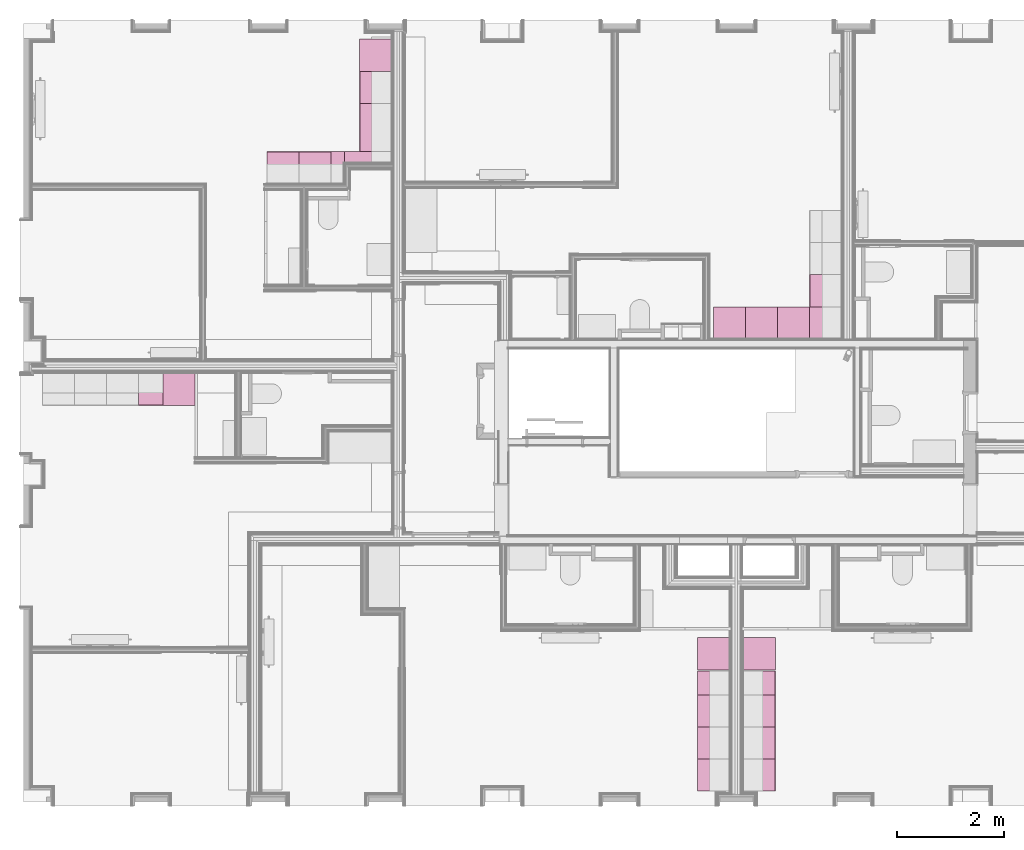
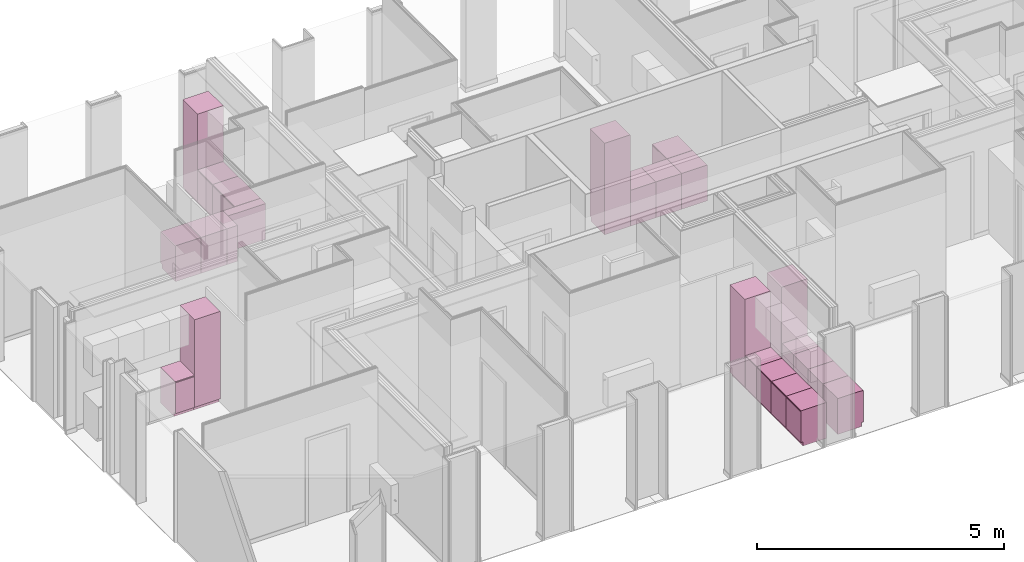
# One storey, part 64 of 65: 24 furnishings.
"""IFC2X3 building model written with IfcOpenShell, lengths in metres."""

from ifc_helpers import new_model, entity, si_unit, converted_unit, derived_unit, money_unit, direction, frame, origin_with_axes, place, context, subcontext, project, spatial, faceted_brep, material, type_object, element, save


model = new_model("IFC2X3")

# Units and contexts
model_context = context("Model", 3, precision=1e-05, world=origin_with_axes(), true_north=direction((0.0, 1.0)))
body_context = subcontext(model_context, "Body", "Model", "MODEL_VIEW", scale=1.0)
ifc_project = project(units=[si_unit("LENGTHUNIT", "METRE"), si_unit("AREAUNIT", "SQUARE_METRE"), si_unit("VOLUMEUNIT", "CUBIC_METRE"), si_unit("ABSORBEDDOSEUNIT", "GRAY"), si_unit("AMOUNTOFSUBSTANCEUNIT", "MOLE"), si_unit("DOSEEQUIVALENTUNIT", "SIEVERT"), si_unit("ELECTRICCAPACITANCEUNIT", "FARAD"), si_unit("ELECTRICCHARGEUNIT", "COULOMB"), si_unit("ELECTRICCONDUCTANCEUNIT", "SIEMENS"), si_unit("ELECTRICCURRENTUNIT", "AMPERE"), si_unit("ELECTRICRESISTANCEUNIT", "OHM"), si_unit("ELECTRICVOLTAGEUNIT", "VOLT"), si_unit("ENERGYUNIT", "JOULE"), si_unit("FORCEUNIT", "NEWTON"), si_unit("FREQUENCYUNIT", "HERTZ"), si_unit("ILLUMINANCEUNIT", "LUX"), si_unit("INDUCTANCEUNIT", "HENRY"), si_unit("LUMINOUSFLUXUNIT", "LUMEN"), si_unit("LUMINOUSINTENSITYUNIT", "CANDELA"), si_unit("MAGNETICFLUXDENSITYUNIT", "TESLA"), si_unit("MAGNETICFLUXUNIT", "WEBER"), si_unit("MASSUNIT", "GRAM"), converted_unit("PLANEANGLEUNIT", "degree", entity("IfcReal", 0.0174532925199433), si_unit("PLANEANGLEUNIT", "RADIAN"), dimensions=[0, 0, 0, 0, 0, 0, 0]), si_unit("POWERUNIT", "WATT"), si_unit("PRESSUREUNIT", "PASCAL"), si_unit("RADIOACTIVITYUNIT", "BECQUEREL"), si_unit("SOLIDANGLEUNIT", "STERADIAN"), si_unit("THERMODYNAMICTEMPERATUREUNIT", "KELVIN"), si_unit("TIMEUNIT", "SECOND"), derived_unit("ACCELERATIONUNIT", [(si_unit("LENGTHUNIT", "METRE"), 1), (si_unit("TIMEUNIT", "SECOND"), -2)]), derived_unit("ANGULARVELOCITYUNIT", [(converted_unit("PLANEANGLEUNIT", "degree", entity("IfcReal", 0.0174532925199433), si_unit("PLANEANGLEUNIT", "RADIAN"), dimensions=[0, 0, 0, 0, 0, 0, 0]), 1), (si_unit("TIMEUNIT", "SECOND"), -1)]), derived_unit("CURVATUREUNIT", [(converted_unit("PLANEANGLEUNIT", "degree", entity("IfcReal", 0.0174532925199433), si_unit("PLANEANGLEUNIT", "RADIAN"), dimensions=[0, 0, 0, 0, 0, 0, 0]), 1), (si_unit("LENGTHUNIT", "METRE"), -1)]), derived_unit("DYNAMICVISCOSITYUNIT", [(si_unit("PRESSUREUNIT", "PASCAL"), 1), (si_unit("TIMEUNIT", "SECOND"), 1)]), derived_unit("HEATFLUXDENSITYUNIT", [(si_unit("POWERUNIT", "WATT"), 1), (si_unit("LENGTHUNIT", "METRE"), -2)]), derived_unit("HEATINGVALUEUNIT", [(si_unit("ENERGYUNIT", "JOULE"), 1), (si_unit("MASSUNIT", "GRAM"), -1)]), derived_unit("INTEGERCOUNTRATEUNIT", [(si_unit("TIMEUNIT", "SECOND"), -1)]), derived_unit("IONCONCENTRATIONUNIT", [(si_unit("MASSUNIT", "GRAM"), 1), (si_unit("VOLUMEUNIT", "CUBIC_METRE"), -1)]), derived_unit("ISOTHERMALMOISTURECAPACITYUNIT", [(si_unit("VOLUMEUNIT", "CUBIC_METRE"), 1), (si_unit("MASSUNIT", "GRAM"), -1)]), derived_unit("KINEMATICVISCOSITYUNIT", [(si_unit("AREAUNIT", "SQUARE_METRE"), 1), (si_unit("TIMEUNIT", "SECOND"), -1)]), derived_unit("LINEARFORCEUNIT", [(si_unit("FORCEUNIT", "NEWTON"), 1), (si_unit("LENGTHUNIT", "METRE"), -1)]), derived_unit("LINEARMOMENTUNIT", [(si_unit("FORCEUNIT", "NEWTON"), 1), (si_unit("LENGTHUNIT", "METRE"), -1)]), derived_unit("LINEARSTIFFNESSUNIT", [(si_unit("FORCEUNIT", "NEWTON"), 1), (si_unit("LENGTHUNIT", "METRE"), -1)]), derived_unit("LINEARVELOCITYUNIT", [(si_unit("LENGTHUNIT", "METRE"), 1), (si_unit("TIMEUNIT", "SECOND"), -1)]), derived_unit("LUMINOUSINTENSITYDISTRIBUTIONUNIT", [(si_unit("LUMINOUSINTENSITYUNIT", "CANDELA"), 1), (si_unit("LUMINOUSFLUXUNIT", "LUMEN"), -1)]), derived_unit("MASSDENSITYUNIT", [(si_unit("MASSUNIT", "GRAM"), 1), (si_unit("VOLUMEUNIT", "CUBIC_METRE"), -1)]), derived_unit("MASSFLOWRATEUNIT", [(si_unit("MASSUNIT", "GRAM"), 1), (si_unit("TIMEUNIT", "SECOND"), -1)]), derived_unit("MASSPERLENGTHUNIT", [(si_unit("MASSUNIT", "GRAM"), 1), (si_unit("LENGTHUNIT", "METRE"), -1)]), derived_unit("MODULUSOFELASTICITYUNIT", [(si_unit("FORCEUNIT", "NEWTON"), 1), (si_unit("AREAUNIT", "SQUARE_METRE"), -1)]), derived_unit("MODULUSOFLINEARSUBGRADEREACTIONUNIT", [(si_unit("FORCEUNIT", "NEWTON"), 1), (si_unit("LENGTHUNIT", "METRE"), -2)]), derived_unit("MODULUSOFROTATIONALSUBGRADEREACTIONUNIT", [(si_unit("FORCEUNIT", "NEWTON"), 1), (si_unit("LENGTHUNIT", "METRE"), 1)]), derived_unit("MODULUSOFSUBGRADEREACTIONUNIT", [(si_unit("FORCEUNIT", "NEWTON"), 1), (si_unit("VOLUMEUNIT", "CUBIC_METRE"), -1)]), derived_unit("MOISTUREDIFFUSIVITYUNIT", [(si_unit("VOLUMEUNIT", "CUBIC_METRE"), 1), (si_unit("TIMEUNIT", "SECOND"), -1)]), derived_unit("MOLECULARWEIGHTUNIT", [(si_unit("MASSUNIT", "GRAM"), 1), (si_unit("AMOUNTOFSUBSTANCEUNIT", "MOLE"), -1)]), derived_unit("PLANARFORCEUNIT", [(si_unit("FORCEUNIT", "NEWTON"), 1), (si_unit("LENGTHUNIT", "METRE"), -2)]), derived_unit("ROTATIONALFREQUENCYUNIT", [(si_unit("TIMEUNIT", "SECOND"), -1)]), derived_unit("ROTATIONALMASSUNIT", [(si_unit("MASSUNIT", "GRAM"), 1), (si_unit("LENGTHUNIT", "METRE"), 2)]), derived_unit("ROTATIONALSTIFFNESSUNIT", [(si_unit("FORCEUNIT", "NEWTON"), 1), (si_unit("LENGTHUNIT", "METRE"), 1), (converted_unit("PLANEANGLEUNIT", "degree", entity("IfcReal", 0.0174532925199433), si_unit("PLANEANGLEUNIT", "RADIAN"), dimensions=[0, 0, 0, 0, 0, 0, 0]), -1)]), derived_unit("SECTIONAREAINTEGRALUNIT", [(si_unit("LENGTHUNIT", "METRE"), 5)]), derived_unit("SECTIONMODULUSUNIT", [(si_unit("LENGTHUNIT", "METRE"), 3)]), derived_unit("SHEARMODULUSUNIT", [(si_unit("FORCEUNIT", "NEWTON"), 1), (si_unit("AREAUNIT", "SQUARE_METRE"), -1)]), derived_unit("SOUNDPOWERUNIT", [(si_unit("ENERGYUNIT", "JOULE"), 1), (si_unit("TIMEUNIT", "SECOND"), -1)]), derived_unit("SPECIFICHEATCAPACITYUNIT", [(si_unit("FORCEUNIT", "NEWTON"), 1), (si_unit("MASSUNIT", "GRAM"), -1), (si_unit("THERMODYNAMICTEMPERATUREUNIT", "KELVIN"), -1)]), derived_unit("TEMPERATUREGRADIENTUNIT", [(si_unit("THERMODYNAMICTEMPERATUREUNIT", "KELVIN"), 1), (si_unit("LENGTHUNIT", "METRE"), -1)]), derived_unit("THERMALADMITTANCEUNIT", [(si_unit("POWERUNIT", "WATT"), 1), (si_unit("AREAUNIT", "SQUARE_METRE"), -1), (si_unit("THERMODYNAMICTEMPERATUREUNIT", "KELVIN"), -1)]), derived_unit("THERMALCONDUCTANCEUNIT", [(si_unit("POWERUNIT", "WATT"), 1), (si_unit("LENGTHUNIT", "METRE"), -1), (si_unit("THERMODYNAMICTEMPERATUREUNIT", "KELVIN"), -1)]), derived_unit("THERMALEXPANSIONCOEFFICIENTUNIT", [(si_unit("THERMODYNAMICTEMPERATUREUNIT", "KELVIN"), -1)]), derived_unit("THERMALRESISTANCEUNIT", [(si_unit("AREAUNIT", "SQUARE_METRE"), 1), (si_unit("POWERUNIT", "WATT"), -1)]), derived_unit("THERMALTRANSMITTANCEUNIT", [(si_unit("POWERUNIT", "WATT"), 1), (si_unit("AREAUNIT", "SQUARE_METRE"), -1), (si_unit("THERMODYNAMICTEMPERATUREUNIT", "KELVIN"), -1)]), derived_unit("TORQUEUNIT", [(si_unit("FORCEUNIT", "NEWTON"), 1), (si_unit("LENGTHUNIT", "METRE"), 1)]), derived_unit("VAPORPERMEABILITYUNIT", [(si_unit("MASSUNIT", "GRAM"), 1), (si_unit("TIMEUNIT", "SECOND"), -1)]), derived_unit("VOLUMETRICFLOWRATEUNIT", [(si_unit("VOLUMEUNIT", "CUBIC_METRE"), 1), (si_unit("TIMEUNIT", "SECOND"), -1)]), derived_unit("WARPINGCONSTANTUNIT", [(si_unit("LENGTHUNIT", "METRE"), 6)]), derived_unit("WARPINGMOMENTUNIT", [(si_unit("FORCEUNIT", "NEWTON"), 1), (si_unit("LENGTHUNIT", "METRE"), 2)]), money_unit("GBP")], contexts=[model_context])

# Site, building, storey, space
site_placement = place(None, origin_with_axes())
site = spatial("IfcSite", under=ifc_project, at=site_placement, Name="Site", CompositionType="ELEMENT")
building_placement = place(site_placement, origin_with_axes())
building = spatial("IfcBuilding", under=site, at=building_placement, Name="Building01", CompositionType="ELEMENT")
storey_placement = place(building_placement, frame((0.0, 0.0, 8.64), z_axis=(0.0, 0.0, 1.0), x_axis=(1.0, 0.0, 0.0)))
storey = spatial("IfcBuildingStorey", under=building, at=storey_placement, Name="2F", CompositionType="ELEMENT", Elevation=8.64)
space_1_placement = place(storey_placement, frame((0.318, 8.21067, 0.017975), z_axis=(0.0, 0.0, 1.0), x_axis=(0.0, -1.0, 0.0)))
space_1 = spatial("IfcSpace", under=storey, at=space_1_placement, Name="13", CompositionType="ELEMENT", InteriorOrExteriorSpace="NOTDEFINED")

# Furnishing
ifc_material = material(Name="A_BSUK_StorageScreening_Ffe")
furniture_type_1 = type_object("IfcFurnitureType", Name="SHE_A-Kitchenunit-Tall")
placement = place(storey_placement, frame((0.0, 0.0, -8.64), z_axis=(0.0, 0.0, 1.0), x_axis=(1.0, 0.0, 0.0)))
element("IfcFurnishingElement", 1, at=placement, inside=space_1, type_object=furniture_type_1, material=ifc_material, Name="13", ObjectType="SHE_A-Kitchenunit-Tall", context=body_context, shape_type="Brep", body=[
    faceted_brep([(2.77073, 8.18817, 10.904), (3.37073, 8.18817, 10.904), (3.37073, 8.18817, 8.644), (2.77073, 8.18817, 8.644), (3.37073, 7.58817, 10.904), (3.37073, 7.58817, 8.744), (3.37073, 7.63817, 8.744), (3.37073, 7.63817, 8.644), (2.77073, 7.63817, 8.744), (2.77073, 7.63817, 8.644), (2.77073, 7.58817, 8.744), (2.77073, 7.58817, 10.904)], [[[0, 1, 2, 3]], [[1, 4, 5, 6, 7, 2]], [[8, 9, 7, 6]], [[8, 10, 11, 0, 3, 9]], [[2, 7, 9, 3]], [[5, 4, 11, 10]], [[11, 4, 1, 0]], [[6, 5, 10, 8]]]),
])

# Space
space_2_placement = place(storey_placement, frame((11.275, 10.415, 0.017975), z_axis=(0.0, 0.0, 1.0), x_axis=(1.0, 0.0, 0.0)))
space_2 = spatial("IfcSpace", under=storey, at=space_2_placement, Name="k/d/l", CompositionType="ELEMENT", InteriorOrExteriorSpace="NOTDEFINED")

# Furnishing
element("IfcFurnishingElement", 2, at=placement, inside=space_2, type_object=furniture_type_1, material=ifc_material, Name="15", ObjectType="SHE_A-Kitchenunit-Tall", context=body_context, shape_type="Brep", body=[
    faceted_brep([(13.668132, 8.835, 10.904), (13.068132, 8.835, 10.904), (13.068132, 8.835, 8.644), (13.668132, 8.835, 8.644), (13.068132, 9.435, 10.904), (13.068132, 9.435, 8.744), (13.068132, 9.385, 8.744), (13.068132, 9.385, 8.644), (13.668132, 9.385, 8.744), (13.668132, 9.385, 8.644), (13.668132, 9.435, 8.744), (13.668132, 9.435, 10.904)], [[[0, 1, 2, 3]], [[1, 4, 5, 6, 7, 2]], [[8, 9, 7, 6]], [[8, 10, 11, 0, 3, 9]], [[2, 7, 9, 3]], [[5, 4, 11, 10]], [[11, 4, 1, 0]], [[6, 5, 10, 8]]]),
])

# Space
space_3_placement = place(storey_placement, frame((17.9025, 3.385, 0.017975), z_axis=(0.0, 0.0, 1.0), x_axis=(-1.0, 0.0, 0.0)))
space_3 = spatial("IfcSpace", under=storey, at=space_3_placement, Name="k/d/l", CompositionType="ELEMENT", InteriorOrExteriorSpace="NOTDEFINED")

# Furnishing
element("IfcFurnishingElement", 3, at=placement, inside=space_3, type_object=furniture_type_1, material=ifc_material, Name="11", ObjectType="SHE_A-Kitchenunit-Tall", context=body_context, shape_type="Brep", body=[
    faceted_brep([(13.631, 3.245001, 8.644), (13.631, 2.645001, 8.644), (13.631, 2.645001, 10.904), (13.631, 3.245001, 10.904), (14.181, 2.645001, 8.644), (14.181, 2.645001, 8.744), (14.231, 2.645001, 8.744), (14.231, 2.645001, 10.904), (14.181, 3.245001, 8.644), (14.181, 3.245001, 8.744), (14.231, 3.245001, 10.904), (14.231, 3.245001, 8.744)], [[[0, 1, 2, 3]], [[1, 4, 5, 6, 7, 2]], [[5, 4, 8, 9]], [[8, 0, 3, 10, 11, 9]], [[0, 8, 4, 1]], [[11, 10, 7, 6]], [[3, 2, 7, 10]], [[9, 11, 6, 5]]]),
])

# Space
space_4_placement = place(storey_placement, frame((6.595, 4.98, 0.017975), z_axis=(0.0, 0.0, 1.0), x_axis=(0.0, -1.0, 0.0)))
space_4 = spatial("IfcSpace", under=storey, at=space_4_placement, Name="k/d/l", CompositionType="ELEMENT", InteriorOrExteriorSpace="NOTDEFINED")

# Furnishing
element("IfcFurnishingElement", 4, at=placement, inside=space_4, type_object=furniture_type_1, material=ifc_material, Name="12", ObjectType="SHE_A-Kitchenunit-Tall", context=body_context, shape_type="Brep", body=[
    faceted_brep([(13.369, 3.245001, 10.904), (13.369, 2.645001, 10.904), (13.369, 2.645001, 8.644), (13.369, 3.245001, 8.644), (12.769, 2.645001, 10.904), (12.769, 2.645001, 8.744), (12.819, 2.645001, 8.744), (12.819, 2.645001, 8.644), (12.819, 3.245001, 8.744), (12.819, 3.245001, 8.644), (12.769, 3.245001, 8.744), (12.769, 3.245001, 10.904)], [[[0, 1, 2, 3]], [[1, 4, 5, 6, 7, 2]], [[8, 9, 7, 6]], [[8, 10, 11, 0, 3, 9]], [[2, 7, 9, 3]], [[5, 4, 11, 10]], [[11, 4, 1, 0]], [[6, 5, 10, 8]]]),
])

# Space
space_5_placement = place(storey_placement, frame((0.318, 11.72567, 0.017975), z_axis=(0.0, 0.0, 1.0), x_axis=(1.0, 0.0, 0.0)))
space_5 = spatial("IfcSpace", under=storey, at=space_5_placement, Name="k/d/l", CompositionType="ELEMENT", InteriorOrExteriorSpace="NOTDEFINED")

# Furnishings
element("IfcFurnishingElement", 5, at=placement, inside=space_5, type_object=furniture_type_1, material=ifc_material, Name="14", ObjectType="SHE_A-Kitchenunit-Tall", context=body_context, shape_type="Brep", body=[
    faceted_brep([(7.049669, 13.84067, 8.644), (7.049669, 14.44067, 8.644), (7.049669, 14.44067, 10.904), (7.049669, 13.84067, 10.904), (6.499669, 14.44067, 8.644), (6.499669, 14.44067, 8.744), (6.449669, 14.44067, 8.744), (6.449669, 14.44067, 10.904), (6.499669, 13.84067, 8.644), (6.499669, 13.84067, 8.744), (6.449669, 13.84067, 10.904), (6.449669, 13.84067, 8.744)], [[[0, 1, 2, 3]], [[1, 4, 5, 6, 7, 2]], [[5, 4, 8, 9]], [[8, 0, 3, 10, 11, 9]], [[0, 8, 4, 1]], [[11, 10, 7, 6]], [[3, 2, 7, 10]], [[9, 11, 6, 5]]]),
])
furniture_type_2 = type_object("IfcFurnitureType", Name="SHE_A-Kitchenunit-Base")
element("IfcFurnishingElement", 6, at=placement, inside=space_2, type_object=furniture_type_2, material=ifc_material, Name="15", ObjectType="SHE_A-Kitchenunit-Base", context=body_context, shape_type="Brep", body=[
    faceted_brep([(14.868132, 8.835, 9.529), (14.268132, 8.835, 9.529), (14.268132, 8.835, 8.644), (14.868132, 8.835, 8.644), (14.268132, 9.427929, 9.529), (14.268132, 9.435, 9.521929), (14.268132, 9.435, 9.511071), (14.268132, 9.427929, 9.504), (14.268132, 9.435, 9.504), (14.268132, 9.435, 8.744), (14.268132, 9.385, 8.744), (14.268132, 9.385, 8.644), (14.868132, 9.385, 8.744), (14.868132, 9.385, 8.644), (14.868132, 9.435, 8.744), (14.868132, 9.435, 9.504), (14.868132, 9.427929, 9.504), (14.868132, 9.435, 9.511071), (14.868132, 9.435, 9.521929), (14.868132, 9.427929, 9.529)], [[[0, 1, 2, 3]], [[1, 4, 5, 6, 7, 8, 9, 10, 11, 2]], [[12, 13, 11, 10]], [[12, 14, 15, 16, 17, 18, 19, 0, 3, 13]], [[2, 11, 13, 3]], [[7, 16, 15, 8]], [[9, 8, 15, 14]], [[10, 9, 14, 12]], [[5, 18, 17, 6]], [[19, 4, 1, 0]], [[6, 17, 16, 7]], [[4, 19, 18, 5]]]),
])
element("IfcFurnishingElement", 7, at=placement, inside=space_2, type_object=furniture_type_2, material=ifc_material, Name="15", ObjectType="SHE_A-Kitchenunit-Base", context=body_context, shape_type="Brep", body=[
    faceted_brep([(15.468132, 8.835, 9.529), (14.868132, 8.835, 9.529), (14.868132, 8.835, 8.644), (15.468132, 8.835, 8.644), (14.868132, 9.427929, 9.529), (14.868132, 9.435, 9.521929), (14.868132, 9.435, 9.511071), (14.868132, 9.427929, 9.504), (14.868132, 9.435, 9.504), (14.868132, 9.435, 8.744), (14.868132, 9.385, 8.744), (14.868132, 9.385, 8.644), (15.468132, 9.385, 8.744), (15.468132, 9.385, 8.644), (15.468132, 9.435, 8.744), (15.468132, 9.435, 9.504), (15.468132, 9.427929, 9.504), (15.468132, 9.435, 9.511071), (15.468132, 9.435, 9.521929), (15.468132, 9.427929, 9.529)], [[[0, 1, 2, 3]], [[1, 4, 5, 6, 7, 8, 9, 10, 11, 2]], [[12, 13, 11, 10]], [[12, 14, 15, 16, 17, 18, 19, 0, 3, 13]], [[2, 11, 13, 3]], [[7, 16, 15, 8]], [[9, 8, 15, 14]], [[10, 9, 14, 12]], [[5, 18, 17, 6]], [[19, 4, 1, 0]], [[6, 17, 16, 7]], [[4, 19, 18, 5]]]),
])
element("IfcFurnishingElement", 8, at=placement, inside=space_2, type_object=furniture_type_2, material=ifc_material, Name="15", ObjectType="SHE_A-Kitchenunit-Base", context=body_context, shape_type="Brep", body=[
    faceted_brep([(15.468132, 10.035, 9.529), (15.468132, 9.435, 9.529), (15.468132, 9.435, 8.644), (15.468132, 10.035, 8.644), (14.875203, 9.435, 9.529), (14.868132, 9.435, 9.521929), (14.868132, 9.435, 9.511071), (14.875203, 9.435, 9.504), (14.868132, 9.435, 9.504), (14.868132, 9.435, 8.744), (14.918132, 9.435, 8.744), (14.918132, 9.435, 8.644), (14.918132, 10.035, 8.744), (14.918132, 10.035, 8.644), (14.868132, 10.035, 8.744), (14.868132, 10.035, 9.504), (14.875203, 10.035, 9.504), (14.868132, 10.035, 9.511071), (14.868132, 10.035, 9.521929), (14.875203, 10.035, 9.529)], [[[0, 1, 2, 3]], [[1, 4, 5, 6, 7, 8, 9, 10, 11, 2]], [[12, 13, 11, 10]], [[12, 14, 15, 16, 17, 18, 19, 0, 3, 13]], [[2, 11, 13, 3]], [[7, 16, 15, 8]], [[9, 8, 15, 14]], [[10, 9, 14, 12]], [[5, 18, 17, 6]], [[19, 4, 1, 0]], [[6, 17, 16, 7]], [[4, 19, 18, 5]]]),
])
element("IfcFurnishingElement", 9, at=placement, inside=space_2, type_object=furniture_type_2, material=ifc_material, Name="15", ObjectType="SHE_A-Kitchenunit-Base", context=body_context, shape_type="Brep", body=[
    faceted_brep([(14.268132, 8.835, 9.529), (13.668132, 8.835, 9.529), (13.668132, 8.835, 8.644), (14.268132, 8.835, 8.644), (13.668132, 9.427929, 9.529), (13.668132, 9.435, 9.521929), (13.668132, 9.435, 9.511071), (13.668132, 9.427929, 9.504), (13.668132, 9.435, 9.504), (13.668132, 9.435, 8.744), (13.668132, 9.385, 8.744), (13.668132, 9.385, 8.644), (14.268132, 9.385, 8.744), (14.268132, 9.385, 8.644), (14.268132, 9.435, 8.744), (14.268132, 9.435, 9.504), (14.268132, 9.427929, 9.504), (14.268132, 9.435, 9.511071), (14.268132, 9.435, 9.521929), (14.268132, 9.427929, 9.529)], [[[0, 1, 2, 3]], [[1, 4, 5, 6, 7, 8, 9, 10, 11, 2]], [[12, 13, 11, 10]], [[12, 14, 15, 16, 17, 18, 19, 0, 3, 13]], [[2, 11, 13, 3]], [[7, 16, 15, 8]], [[9, 8, 15, 14]], [[10, 9, 14, 12]], [[5, 18, 17, 6]], [[19, 4, 1, 0]], [[6, 17, 16, 7]], [[4, 19, 18, 5]]]),
])
element("IfcFurnishingElement", 10, at=placement, inside=space_3, type_object=furniture_type_2, material=ifc_material, Name="11", ObjectType="SHE_A-Kitchenunit-Base", context=body_context, shape_type="Brep", body=[
    faceted_brep([(13.631, 2.175001, 8.644), (13.631, 1.575001, 8.644), (13.631, 1.575001, 9.529), (13.631, 2.175001, 9.529), (14.181, 1.575001, 8.644), (14.181, 1.575001, 8.744), (14.231, 1.575001, 8.744), (14.231, 1.575001, 9.504), (14.223929, 1.575001, 9.504), (14.231, 1.575001, 9.511071), (14.231, 1.575001, 9.521929), (14.223929, 1.575001, 9.529), (14.181, 2.175001, 8.644), (14.181, 2.175001, 8.744), (14.223929, 2.175001, 9.529), (14.231, 2.175001, 9.521929), (14.231, 2.175001, 9.511071), (14.223929, 2.175001, 9.504), (14.231, 2.175001, 9.504), (14.231, 2.175001, 8.744)], [[[0, 1, 2, 3]], [[1, 4, 5, 6, 7, 8, 9, 10, 11, 2]], [[5, 4, 12, 13]], [[12, 0, 3, 14, 15, 16, 17, 18, 19, 13]], [[0, 12, 4, 1]], [[7, 18, 17, 8]], [[19, 18, 7, 6]], [[13, 19, 6, 5]], [[9, 16, 15, 10]], [[3, 2, 11, 14]], [[8, 17, 16, 9]], [[10, 15, 14, 11]]]),
])
element("IfcFurnishingElement", 11, at=placement, inside=space_3, type_object=furniture_type_2, material=ifc_material, Name="11", ObjectType="SHE_A-Kitchenunit-Base", context=body_context, shape_type="Brep", body=[
    faceted_brep([(13.631, 1.575001, 8.644), (13.631, 0.975001, 8.644), (13.631, 0.975001, 9.529), (13.631, 1.575001, 9.529), (14.181, 0.975001, 8.644), (14.181, 0.975001, 8.744), (14.231, 0.975001, 8.744), (14.231, 0.975001, 9.504), (14.223929, 0.975001, 9.504), (14.231, 0.975001, 9.511071), (14.231, 0.975001, 9.521929), (14.223929, 0.975001, 9.529), (14.181, 1.575001, 8.644), (14.181, 1.575001, 8.744), (14.223929, 1.575001, 9.529), (14.231, 1.575001, 9.521929), (14.231, 1.575001, 9.511071), (14.223929, 1.575001, 9.504), (14.231, 1.575001, 9.504), (14.231, 1.575001, 8.744)], [[[0, 1, 2, 3]], [[1, 4, 5, 6, 7, 8, 9, 10, 11, 2]], [[5, 4, 12, 13]], [[12, 0, 3, 14, 15, 16, 17, 18, 19, 13]], [[0, 12, 4, 1]], [[7, 18, 17, 8]], [[19, 18, 7, 6]], [[13, 19, 6, 5]], [[9, 16, 15, 10]], [[3, 2, 11, 14]], [[8, 17, 16, 9]], [[10, 15, 14, 11]]]),
])
element("IfcFurnishingElement", 12, at=placement, inside=space_3, type_object=furniture_type_2, material=ifc_material, Name="11", ObjectType="SHE_A-Kitchenunit-Base", context=body_context, shape_type="Brep", body=[
    faceted_brep([(13.631, 0.975001, 8.644), (13.631, 0.375001, 8.644), (13.631, 0.375001, 9.529), (13.631, 0.975001, 9.529), (14.181, 0.375001, 8.644), (14.181, 0.375001, 8.744), (14.231, 0.375001, 8.744), (14.231, 0.375001, 9.504), (14.223929, 0.375001, 9.504), (14.231, 0.375001, 9.511071), (14.231, 0.375001, 9.521929), (14.223929, 0.375001, 9.529), (14.181, 0.975001, 8.644), (14.181, 0.975001, 8.744), (14.223929, 0.975001, 9.529), (14.231, 0.975001, 9.521929), (14.231, 0.975001, 9.511071), (14.223929, 0.975001, 9.504), (14.231, 0.975001, 9.504), (14.231, 0.975001, 8.744)], [[[0, 1, 2, 3]], [[1, 4, 5, 6, 7, 8, 9, 10, 11, 2]], [[5, 4, 12, 13]], [[12, 0, 3, 14, 15, 16, 17, 18, 19, 13]], [[0, 12, 4, 1]], [[7, 18, 17, 8]], [[19, 18, 7, 6]], [[13, 19, 6, 5]], [[9, 16, 15, 10]], [[3, 2, 11, 14]], [[8, 17, 16, 9]], [[10, 15, 14, 11]]]),
])
element("IfcFurnishingElement", 13, at=placement, inside=space_4, type_object=furniture_type_2, material=ifc_material, Name="12", ObjectType="SHE_A-Kitchenunit-Base", context=body_context, shape_type="Brep", body=[
    faceted_brep([(13.369, 1.575001, 9.529), (13.369, 0.975001, 9.529), (13.369, 0.975001, 8.644), (13.369, 1.575001, 8.644), (12.776071, 0.975001, 9.529), (12.769, 0.975001, 9.521929), (12.769, 0.975001, 9.511071), (12.776071, 0.975001, 9.504), (12.769, 0.975001, 9.504), (12.769, 0.975001, 8.744), (12.819, 0.975001, 8.744), (12.819, 0.975001, 8.644), (12.819, 1.575001, 8.744), (12.819, 1.575001, 8.644), (12.769, 1.575001, 8.744), (12.769, 1.575001, 9.504), (12.776071, 1.575001, 9.504), (12.769, 1.575001, 9.511071), (12.769, 1.575001, 9.521929), (12.776071, 1.575001, 9.529)], [[[0, 1, 2, 3]], [[1, 4, 5, 6, 7, 8, 9, 10, 11, 2]], [[12, 13, 11, 10]], [[12, 14, 15, 16, 17, 18, 19, 0, 3, 13]], [[2, 11, 13, 3]], [[7, 16, 15, 8]], [[9, 8, 15, 14]], [[10, 9, 14, 12]], [[5, 18, 17, 6]], [[19, 4, 1, 0]], [[6, 17, 16, 7]], [[4, 19, 18, 5]]]),
])
element("IfcFurnishingElement", 14, at=placement, inside=space_4, type_object=furniture_type_2, material=ifc_material, Name="12", ObjectType="SHE_A-Kitchenunit-Base", context=body_context, shape_type="Brep", body=[
    faceted_brep([(13.369, 0.975001, 9.529), (13.369, 0.375001, 9.529), (13.369, 0.375001, 8.644), (13.369, 0.975001, 8.644), (12.776071, 0.375001, 9.529), (12.769, 0.375001, 9.521929), (12.769, 0.375001, 9.511071), (12.776071, 0.375001, 9.504), (12.769, 0.375001, 9.504), (12.769, 0.375001, 8.744), (12.819, 0.375001, 8.744), (12.819, 0.375001, 8.644), (12.819, 0.975001, 8.744), (12.819, 0.975001, 8.644), (12.769, 0.975001, 8.744), (12.769, 0.975001, 9.504), (12.776071, 0.975001, 9.504), (12.769, 0.975001, 9.511071), (12.769, 0.975001, 9.521929), (12.776071, 0.975001, 9.529)], [[[0, 1, 2, 3]], [[1, 4, 5, 6, 7, 8, 9, 10, 11, 2]], [[12, 13, 11, 10]], [[12, 14, 15, 16, 17, 18, 19, 0, 3, 13]], [[2, 11, 13, 3]], [[7, 16, 15, 8]], [[9, 8, 15, 14]], [[10, 9, 14, 12]], [[5, 18, 17, 6]], [[19, 4, 1, 0]], [[6, 17, 16, 7]], [[4, 19, 18, 5]]]),
])
element("IfcFurnishingElement", 15, at=placement, inside=space_4, type_object=furniture_type_2, material=ifc_material, Name="12", ObjectType="SHE_A-Kitchenunit-Base", context=body_context, shape_type="Brep", body=[
    faceted_brep([(13.369, 2.175001, 9.529), (13.369, 1.575001, 9.529), (13.369, 1.575001, 8.644), (13.369, 2.175001, 8.644), (12.776071, 1.575001, 9.529), (12.769, 1.575001, 9.521929), (12.769, 1.575001, 9.511071), (12.776071, 1.575001, 9.504), (12.769, 1.575001, 9.504), (12.769, 1.575001, 8.744), (12.819, 1.575001, 8.744), (12.819, 1.575001, 8.644), (12.819, 2.175001, 8.744), (12.819, 2.175001, 8.644), (12.769, 2.175001, 8.744), (12.769, 2.175001, 9.504), (12.776071, 2.175001, 9.504), (12.769, 2.175001, 9.511071), (12.769, 2.175001, 9.521929), (12.776071, 2.175001, 9.529)], [[[0, 1, 2, 3]], [[1, 4, 5, 6, 7, 8, 9, 10, 11, 2]], [[12, 13, 11, 10]], [[12, 14, 15, 16, 17, 18, 19, 0, 3, 13]], [[2, 11, 13, 3]], [[7, 16, 15, 8]], [[9, 8, 15, 14]], [[10, 9, 14, 12]], [[5, 18, 17, 6]], [[19, 4, 1, 0]], [[6, 17, 16, 7]], [[4, 19, 18, 5]]]),
])
element("IfcFurnishingElement", 16, at=placement, inside=space_5, type_object=furniture_type_2, material=ifc_material, Name="14", ObjectType="SHE_A-Kitchenunit-Base", context=body_context, shape_type="Brep", body=[
    faceted_brep([(7.049669, 13.24067, 8.644), (7.049669, 13.84067, 8.644), (7.049669, 13.84067, 9.529), (7.049669, 13.24067, 9.529), (6.499669, 13.84067, 8.644), (6.499669, 13.84067, 8.744), (6.449669, 13.84067, 8.744), (6.449669, 13.84067, 9.504), (6.45674, 13.84067, 9.504), (6.449669, 13.84067, 9.511071), (6.449669, 13.84067, 9.521929), (6.45674, 13.84067, 9.529), (6.499669, 13.24067, 8.644), (6.499669, 13.24067, 8.744), (6.45674, 13.24067, 9.529), (6.449669, 13.24067, 9.521929), (6.449669, 13.24067, 9.511071), (6.45674, 13.24067, 9.504), (6.449669, 13.24067, 9.504), (6.449669, 13.24067, 8.744)], [[[0, 1, 2, 3]], [[1, 4, 5, 6, 7, 8, 9, 10, 11, 2]], [[5, 4, 12, 13]], [[12, 0, 3, 14, 15, 16, 17, 18, 19, 13]], [[0, 12, 4, 1]], [[7, 18, 17, 8]], [[19, 18, 7, 6]], [[13, 19, 6, 5]], [[9, 16, 15, 10]], [[3, 2, 11, 14]], [[8, 17, 16, 9]], [[10, 15, 14, 11]]]),
])
element("IfcFurnishingElement", 17, at=placement, inside=space_5, type_object=furniture_type_2, material=ifc_material, Name="14", ObjectType="SHE_A-Kitchenunit-Base", context=body_context, shape_type="Brep", body=[
    faceted_brep([(4.719669, 11.74067, 8.644), (5.319669, 11.74067, 8.644), (5.319669, 11.74067, 9.529), (4.719669, 11.74067, 9.529), (5.319669, 12.29067, 8.644), (5.319669, 12.29067, 8.744), (5.319669, 12.34067, 8.744), (5.319669, 12.34067, 9.504), (5.319669, 12.333599, 9.504), (5.319669, 12.34067, 9.511071), (5.319669, 12.34067, 9.521929), (5.319669, 12.333599, 9.529), (4.719669, 12.29067, 8.644), (4.719669, 12.29067, 8.744), (4.719669, 12.333599, 9.529), (4.719669, 12.34067, 9.521929), (4.719669, 12.34067, 9.511071), (4.719669, 12.333599, 9.504), (4.719669, 12.34067, 9.504), (4.719669, 12.34067, 8.744)], [[[0, 1, 2, 3]], [[1, 4, 5, 6, 7, 8, 9, 10, 11, 2]], [[5, 4, 12, 13]], [[12, 0, 3, 14, 15, 16, 17, 18, 19, 13]], [[0, 12, 4, 1]], [[7, 18, 17, 8]], [[19, 18, 7, 6]], [[13, 19, 6, 5]], [[9, 16, 15, 10]], [[3, 2, 11, 14]], [[8, 17, 16, 9]], [[10, 15, 14, 11]]]),
])
element("IfcFurnishingElement", 18, at=placement, inside=space_5, type_object=furniture_type_2, material=ifc_material, Name="14", ObjectType="SHE_A-Kitchenunit-Base", context=body_context, shape_type="Brep", body=[
    faceted_brep([(7.049669, 12.34067, 8.644), (7.049669, 13.24067, 8.644), (7.049669, 13.24067, 9.529), (7.049669, 12.34067, 9.529), (6.499669, 13.24067, 8.644), (6.499669, 13.24067, 8.744), (6.449669, 13.24067, 8.744), (6.449669, 13.24067, 9.504), (6.45674, 13.24067, 9.504), (6.449669, 13.24067, 9.511071), (6.449669, 13.24067, 9.521929), (6.45674, 13.24067, 9.529), (6.499669, 12.34067, 8.644), (6.499669, 12.34067, 8.744), (6.45674, 12.34067, 9.529), (6.449669, 12.34067, 9.521929), (6.449669, 12.34067, 9.511071), (6.45674, 12.34067, 9.504), (6.449669, 12.34067, 9.504), (6.449669, 12.34067, 8.744)], [[[0, 1, 2, 3]], [[1, 4, 5, 6, 7, 8, 9, 10, 11, 2]], [[5, 4, 12, 13]], [[12, 0, 3, 14, 15, 16, 17, 18, 19, 13]], [[0, 12, 4, 1]], [[7, 18, 17, 8]], [[19, 18, 7, 6]], [[13, 19, 6, 5]], [[9, 16, 15, 10]], [[3, 2, 11, 14]], [[8, 17, 16, 9]], [[10, 15, 14, 11]]]),
])
element("IfcFurnishingElement", 19, at=placement, inside=space_5, type_object=furniture_type_2, material=ifc_material, Name="14", ObjectType="SHE_A-Kitchenunit-Base", context=body_context, shape_type="Brep", body=[
    faceted_brep([(5.319669, 11.74067, 8.644), (5.919669, 11.74067, 8.644), (5.919669, 11.74067, 9.529), (5.319669, 11.74067, 9.529), (5.919669, 12.29067, 8.644), (5.919669, 12.29067, 8.744), (5.919669, 12.34067, 8.744), (5.919669, 12.34067, 9.504), (5.919669, 12.333599, 9.504), (5.919669, 12.34067, 9.511071), (5.919669, 12.34067, 9.521929), (5.919669, 12.333599, 9.529), (5.319669, 12.29067, 8.644), (5.319669, 12.29067, 8.744), (5.319669, 12.333599, 9.529), (5.319669, 12.34067, 9.521929), (5.319669, 12.34067, 9.511071), (5.319669, 12.333599, 9.504), (5.319669, 12.34067, 9.504), (5.319669, 12.34067, 8.744)], [[[0, 1, 2, 3]], [[1, 4, 5, 6, 7, 8, 9, 10, 11, 2]], [[5, 4, 12, 13]], [[12, 0, 3, 14, 15, 16, 17, 18, 19, 13]], [[0, 12, 4, 1]], [[7, 18, 17, 8]], [[19, 18, 7, 6]], [[13, 19, 6, 5]], [[9, 16, 15, 10]], [[3, 2, 11, 14]], [[8, 17, 16, 9]], [[10, 15, 14, 11]]]),
])
element("IfcFurnishingElement", 20, at=placement, inside=space_5, type_object=furniture_type_2, material=ifc_material, Name="14", ObjectType="SHE_A-Kitchenunit-Base", context=body_context, shape_type="Brep", body=[
    faceted_brep([(5.919669, 11.74067, 8.644), (6.169669, 11.74067, 8.644), (6.169669, 11.74067, 9.529), (5.919669, 11.74067, 9.529), (6.169669, 12.29067, 8.644), (6.169669, 12.29067, 8.744), (6.169669, 12.34067, 8.744), (6.169669, 12.34067, 9.504), (6.169669, 12.337724, 9.504), (6.169669, 12.34067, 9.506946), (6.169669, 12.34067, 9.526054), (6.169669, 12.337724, 9.529), (5.919669, 12.29067, 8.644), (5.919669, 12.29067, 8.744), (5.919669, 12.337724, 9.529), (5.919669, 12.34067, 9.526054), (5.919669, 12.34067, 9.506946), (5.919669, 12.337724, 9.504), (5.919669, 12.34067, 9.504), (5.919669, 12.34067, 8.744)], [[[0, 1, 2, 3]], [[1, 4, 5, 6, 7, 8, 9, 10, 11, 2]], [[5, 4, 12, 13]], [[12, 0, 3, 14, 15, 16, 17, 18, 19, 13]], [[0, 12, 4, 1]], [[7, 18, 17, 8]], [[19, 18, 7, 6]], [[13, 19, 6, 5]], [[9, 16, 15, 10]], [[3, 2, 11, 14]], [[8, 17, 16, 9]], [[10, 15, 14, 11]]]),
])
element("IfcFurnishingElement", 21, at=placement, inside=space_5, type_object=furniture_type_2, material=ifc_material, Name="14", ObjectType="SHE_A-Kitchenunit-Base", context=body_context, shape_type="Brep", body=[
    faceted_brep([(6.169669, 12.12567, 8.644), (7.039792, 12.12567, 8.644), (7.039792, 12.12567, 8.744), (7.049669, 12.12567, 8.744), (7.049669, 12.12567, 9.529), (6.169669, 12.12567, 9.529), (7.039792, 12.29067, 8.644), (7.039792, 12.29067, 8.744), (6.169669, 12.29067, 8.644), (6.169669, 12.29067, 8.744), (6.169669, 12.337724, 9.529), (6.169669, 12.34067, 9.526054), (6.169669, 12.34067, 9.506946), (6.169669, 12.337724, 9.504), (6.169669, 12.34067, 9.504), (6.169669, 12.34067, 8.744), (7.049669, 12.34067, 9.504), (7.049669, 12.337724, 9.504), (7.049669, 12.34067, 8.744), (7.049669, 12.34067, 9.506946), (7.049669, 12.34067, 9.526054), (7.049669, 12.337724, 9.529)], [[[0, 1, 2, 3, 4, 5]], [[2, 1, 6, 7]], [[7, 6, 8, 9]], [[8, 0, 5, 10, 11, 12, 13, 14, 15, 9]], [[0, 8, 6, 1]], [[16, 14, 13, 17]], [[15, 14, 16, 18]], [[18, 16, 17, 19, 20, 21, 4, 3]], [[9, 15, 18, 3, 2, 7]], [[19, 12, 11, 20]], [[5, 4, 21, 10]], [[17, 13, 12, 19]], [[20, 11, 10, 21]]]),
])
furniture_type_3 = type_object("IfcFurnitureType", Name="SHE_A-Kitchenunit-Base60x45")
element("IfcFurnishingElement", 22, at=placement, inside=space_3, type_object=furniture_type_3, material=ifc_material, Name="11", ObjectType="SHE_A-Kitchenunit-Base60x45", context=body_context, shape_type="Brep", body=[
    faceted_brep([(13.631, 2.175001, 9.529), (13.631, 2.625001, 9.529), (13.631, 2.625001, 8.644), (13.631, 2.175001, 8.644), (14.223929, 2.625001, 9.529), (14.231, 2.625001, 9.521929), (14.231, 2.625001, 9.511071), (14.223929, 2.625001, 9.504), (14.231, 2.625001, 9.504), (14.231, 2.625001, 8.744), (14.181, 2.625001, 8.744), (14.181, 2.625001, 8.644), (14.181, 2.175001, 8.744), (14.181, 2.175001, 8.644), (14.231, 2.175001, 8.744), (14.231, 2.175001, 9.504), (14.223929, 2.175001, 9.504), (14.231, 2.175001, 9.511071), (14.231, 2.175001, 9.521929), (14.223929, 2.175001, 9.529)], [[[0, 1, 2, 3]], [[1, 4, 5, 6, 7, 8, 9, 10, 11, 2]], [[12, 13, 11, 10]], [[12, 14, 15, 16, 17, 18, 19, 0, 3, 13]], [[2, 11, 13, 3]], [[7, 16, 15, 8]], [[9, 8, 15, 14]], [[10, 9, 14, 12]], [[5, 18, 17, 6]], [[19, 4, 1, 0]], [[6, 17, 16, 7]], [[4, 19, 18, 5]]]),
])
element("IfcFurnishingElement", 23, at=placement, inside=space_4, type_object=furniture_type_3, material=ifc_material, Name="12", ObjectType="SHE_A-Kitchenunit-Base60x45", context=body_context, shape_type="Brep", body=[
    faceted_brep([(13.369, 2.175001, 8.644), (13.369, 2.625001, 8.644), (13.369, 2.625001, 9.529), (13.369, 2.175001, 9.529), (12.819, 2.625001, 8.644), (12.819, 2.625001, 8.744), (12.769, 2.625001, 8.744), (12.769, 2.625001, 9.504), (12.776071, 2.625001, 9.504), (12.769, 2.625001, 9.511071), (12.769, 2.625001, 9.521929), (12.776071, 2.625001, 9.529), (12.819, 2.175001, 8.644), (12.819, 2.175001, 8.744), (12.776071, 2.175001, 9.529), (12.769, 2.175001, 9.521929), (12.769, 2.175001, 9.511071), (12.776071, 2.175001, 9.504), (12.769, 2.175001, 9.504), (12.769, 2.175001, 8.744)], [[[0, 1, 2, 3]], [[1, 4, 5, 6, 7, 8, 9, 10, 11, 2]], [[5, 4, 12, 13]], [[12, 0, 3, 14, 15, 16, 17, 18, 19, 13]], [[0, 12, 4, 1]], [[7, 18, 17, 8]], [[19, 18, 7, 6]], [[13, 19, 6, 5]], [[9, 16, 15, 10]], [[3, 2, 11, 14]], [[8, 17, 16, 9]], [[10, 15, 14, 11]]]),
])
element("IfcFurnishingElement", 24, at=placement, inside=space_1, type_object=furniture_type_3, material=ifc_material, Name="13", ObjectType="SHE_A-Kitchenunit-Base60x45", context=body_context, shape_type="Brep", body=[
    faceted_brep([(2.32073, 8.18817, 9.529), (2.77073, 8.18817, 9.529), (2.77073, 8.18817, 8.644), (2.32073, 8.18817, 8.644), (2.77073, 7.595241, 9.529), (2.77073, 7.58817, 9.521929), (2.77073, 7.58817, 9.511071), (2.77073, 7.595241, 9.504), (2.77073, 7.58817, 9.504), (2.77073, 7.58817, 8.744), (2.77073, 7.63817, 8.744), (2.77073, 7.63817, 8.644), (2.32073, 7.63817, 8.744), (2.32073, 7.63817, 8.644), (2.32073, 7.58817, 8.744), (2.32073, 7.58817, 9.504), (2.32073, 7.595241, 9.504), (2.32073, 7.58817, 9.511071), (2.32073, 7.58817, 9.521929), (2.32073, 7.595241, 9.529)], [[[0, 1, 2, 3]], [[1, 4, 5, 6, 7, 8, 9, 10, 11, 2]], [[12, 13, 11, 10]], [[12, 14, 15, 16, 17, 18, 19, 0, 3, 13]], [[2, 11, 13, 3]], [[7, 16, 15, 8]], [[9, 8, 15, 14]], [[10, 9, 14, 12]], [[5, 18, 17, 6]], [[19, 4, 1, 0]], [[6, 17, 16, 7]], [[4, 19, 18, 5]]]),
])

save(model, "model.ifc")
